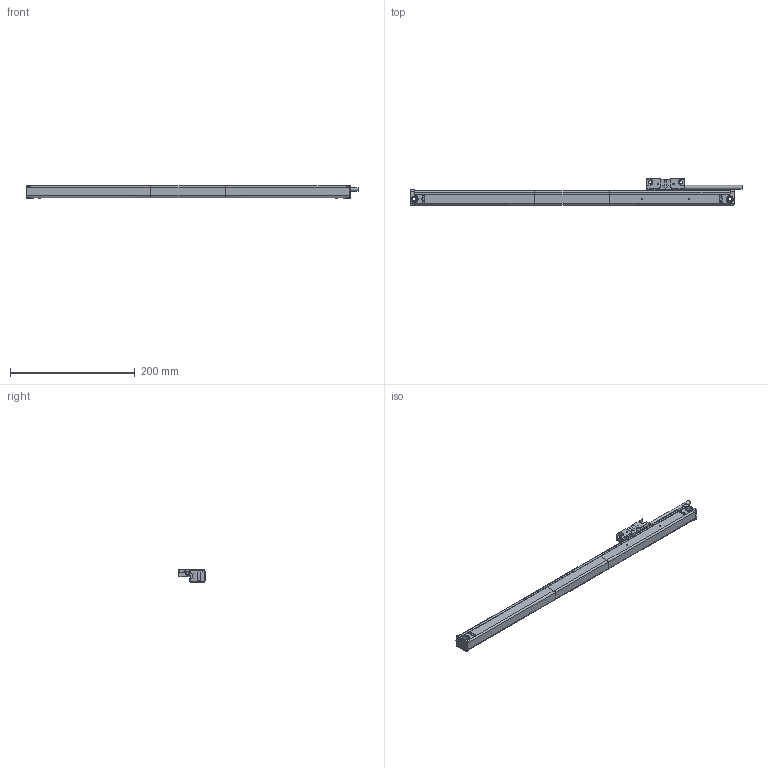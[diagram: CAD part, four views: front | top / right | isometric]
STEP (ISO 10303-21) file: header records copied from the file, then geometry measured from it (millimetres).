
FILE_DESCRIPTION( ( 'STEP AP203' ), '1' );
FILE_NAME( 'N:/Engineering/CAD_Solid/Magnescale/GBER/GB-040ER_SR138-040R.stp', '2013-03-14T10:07:32', ( ' ' ), ( ' ' ), 'XStep 1.0', ' ', ' ' );
FILE_SCHEMA( ( 'CONFIG_CONTROL_DESIGN) ( )' ) );
Length unit declared in the file: metre
Products named in the file (1): 1
Bounding box: 532.5 x 42 x 21 mm (x, y, z)
Surface area: 57171.2 mm2 (no closed solid volume)
Topology: 0 solids, 311 shells, 311 faces, 1680 edges, 1638 vertices
Faces by surface type: plane 194, cylinder 93, torus 12, cone 11, sphere 1
Full cylindrical faces by diameter (mm): 2.013 x2, 2.113 x2, 3.242 x2, 4 x8, 4.8 x2, 5 x2, 5.2 x2, 5.8 x1, 6 x1, 9.8 x2, 10 x2
Entity records: 16217 total; most frequent: CARTESIAN_POINT 3564, DIRECTION 2745, ORIENTED_EDGE 1626, EDGE_CURVE 1626, VERTEX_POINT 1626, LINE 1131, VECTOR 1131, AXIS2_PLACEMENT_3D 807
